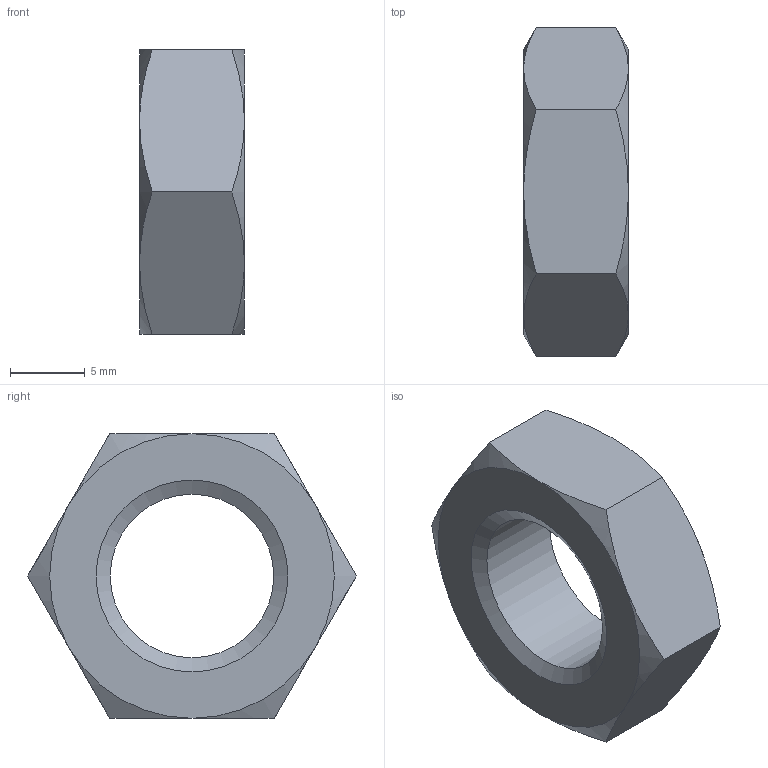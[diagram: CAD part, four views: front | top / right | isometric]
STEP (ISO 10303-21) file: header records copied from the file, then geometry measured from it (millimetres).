
FILE_DESCRIPTION(/* description */ ('6각 너트 및 6각 가는 너트'),/* implementation_level */ '2;1');
FILE_NAME(/* name */ '',/* time_stamp */ '2024-04-08T11:28:11+09:00',/* author */ ('jhkim'),/* organization */ (''),/* preprocessor_version */ 'ST-DEVELOPER v20',/* originating_system */ 'Autodesk Inventor 2025',/* authorisation */ '');
FILE_SCHEMA (('AUTOMOTIVE_DESIGN { 1 0 10303 214 3 1 1 }'));
Length unit declared in the file: millimetre
Products named in the file (1): 육각너트 M12
Bounding box: 7 x 21.94 x 19 mm (x, y, z)
Volume: 1499.5 mm3; surface area: 1083 mm2
Topology: 1 solids, 1 shells, 23 faces, 50 edges, 29 vertices
Faces by surface type: cone 14, plane 8, cylinder 1
Full cylindrical faces by diameter (mm): 10.917 x1
Entity records: 640 total; most frequent: CARTESIAN_POINT 151, ORIENTED_EDGE 100, DIRECTION 91, EDGE_CURVE 50, AXIS2_PLACEMENT_3D 41, VERTEX_POINT 29, EDGE_LOOP 25, FACE_OUTER_BOUND 23
